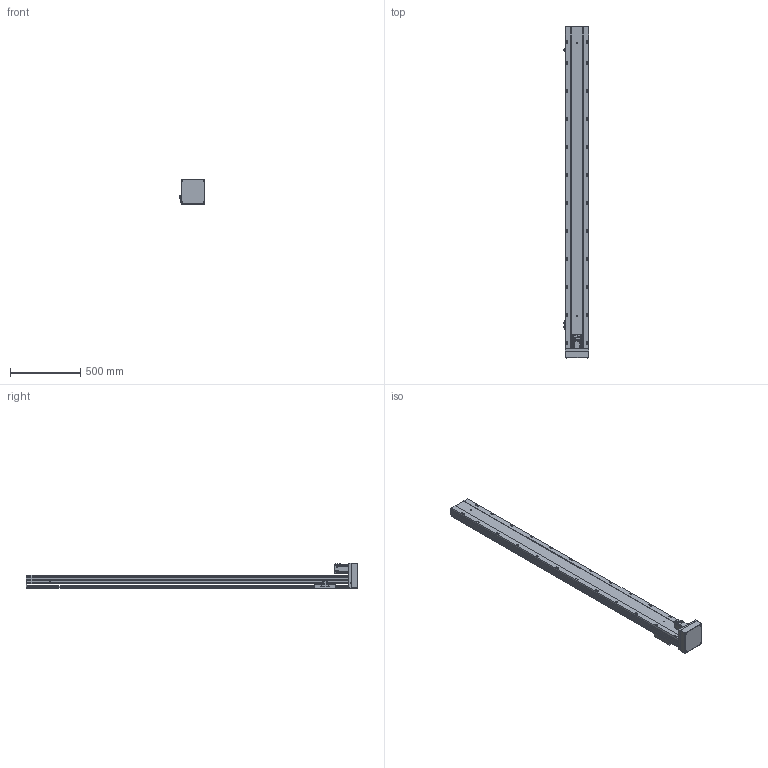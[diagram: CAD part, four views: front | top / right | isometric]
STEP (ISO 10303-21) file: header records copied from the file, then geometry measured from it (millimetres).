
FILE_DESCRIPTION (( 'STEP AP203' ), '1' );
FILE_NAME ('39.STEP', '2021-01-06T00:23:44', ( '' ), ( '' ), 'SwSTEP 2.0', 'SolidWorks 2016', '' );
FILE_SCHEMA (( 'CONFIG_CONTROL_DESIGN' ));
Length unit declared in the file: millimetre
Products named in the file (7): 39; BTH17M-BM-01; BTH17M-BM-HZ; BTH17M-BM-菁釱; BTH17M-BM-02_100; BTH17M-BM-04; BTH17M-BM-T40
Assembly tree (8 placements, depth 2):
  39
    BTH17M-BM-01
    BTH17M-BM-04  x3
    BTH17M-BM-HZ
    BTH17M-BM-菁釱
    BTH17M-BM-02_100
    BTH17M-BM-T40
Bounding box: 183.7 x 2371.2 x 185 mm (x, y, z)
Volume: 15813309.3 mm3; surface area: 2649337.4 mm2
Topology: 19 solids, 19 shells, 1501 faces, 3988 edges, 2537 vertices
Faces by surface type: plane 814, cylinder 559, cone 88, bspline 28, sphere 8, torus 4
Entity records: 41186 total; most frequent: CARTESIAN_POINT 8799, DIRECTION 6653, ORIENTED_EDGE 6524, EDGE_CURVE 3262, AXIS2_PLACEMENT_3D 2327, VERTEX_POINT 2113, VECTOR 1999, LINE 1999
